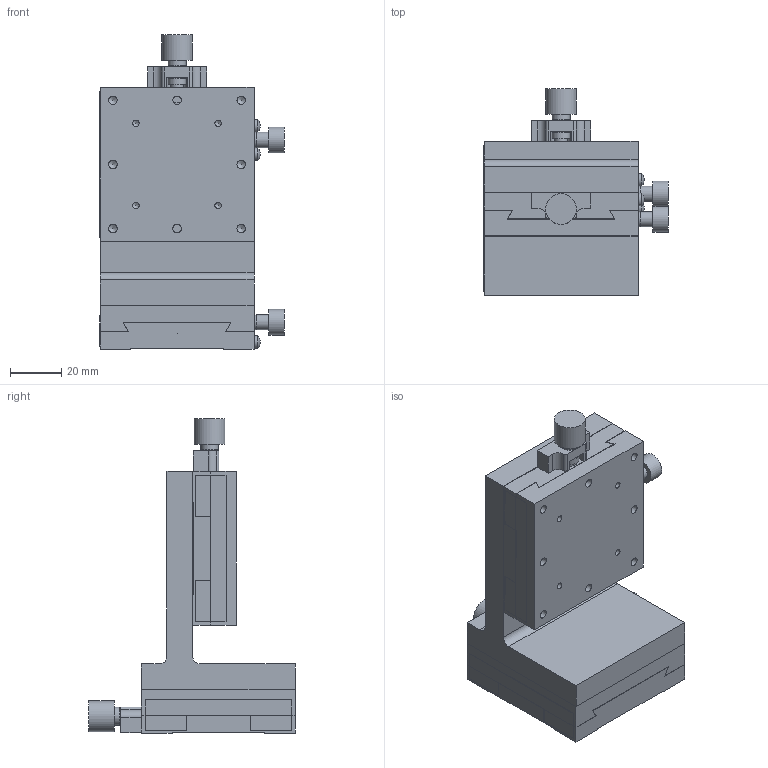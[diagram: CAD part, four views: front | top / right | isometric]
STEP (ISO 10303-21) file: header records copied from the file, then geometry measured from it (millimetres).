
FILE_DESCRIPTION( ( 'STEP AP203' ), '1' );
FILE_NAME( 'C:/3D-Trans/3D_B08-114R+090717.step', '2009-07-17T09:18:32', ( ' ' ), ( ' ' ), 'XStep 1.0', ' ', ' ' );
FILE_SCHEMA( ( 'CONFIG_CONTROL_DESIGN' ) );
Length unit declared in the file: millimetre
Products named in the file (5): 1; 2; 3; 4; 5
Bounding box: 71.95 x 80.5 x 122.5 mm (x, y, z)
Volume: 198837.8 mm3; surface area: 69257.6 mm2
Topology: 5 solids, 9 shells, 370 faces, 968 edges, 626 vertices
Faces by surface type: plane 200, cylinder 142, cone 22, sphere 6
Full cylindrical faces by diameter (mm): 2.5 x16, 3 x2, 3.1 x2, 3.3 x32, 4 x8, 4.1 x4, 4.5 x8, 5 x8, 6 x6, 6.5 x2, 7 x8, 8 x8, 10 x4, 12 x2
Entity records: 10868 total; most frequent: CARTESIAN_POINT 2197, DIRECTION 1766, ORIENTED_EDGE 1520, EDGE_CURVE 760, AXIS2_PLACEMENT_3D 643, VERTEX_POINT 578, EDGE_LOOP 574, FACE_OUTER_BOUND 480
